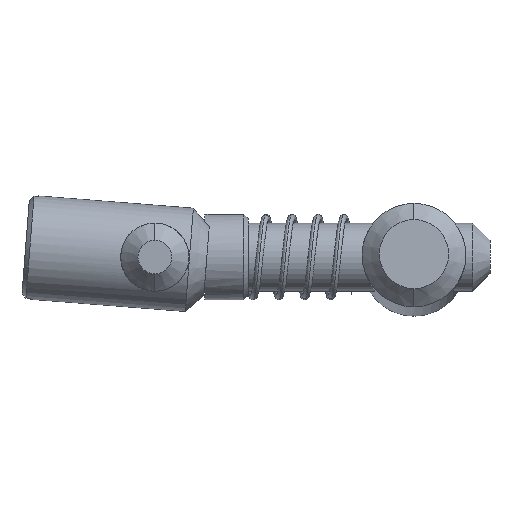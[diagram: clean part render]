
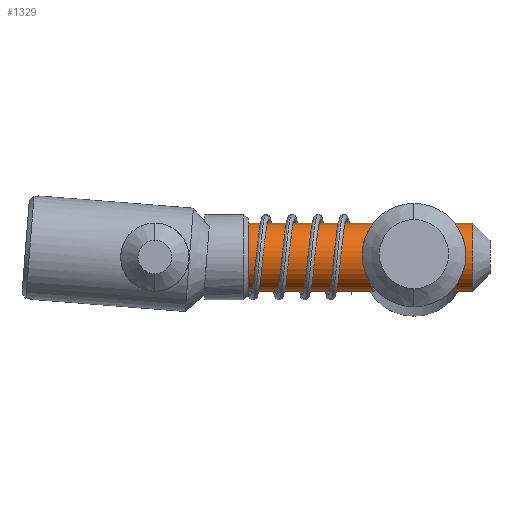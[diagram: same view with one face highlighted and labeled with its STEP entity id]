
A CAD part, left-side view. The second image highlights one B-rep face of the part: STEP entity #1329.
In plain terms, the highlighted cylindrical face has radius 3.95 mm (diameter 7.9 mm), a partial arc.
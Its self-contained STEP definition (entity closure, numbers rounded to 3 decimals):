
#190 = DIRECTION ( 'NONE',  ( 0., 1., 0. ) ) ;
#560 = CARTESIAN_POINT ( 'NONE',  ( 3.526, -4.384, -13.002 ) ) ;
#562 = DIRECTION ( 'NONE',  ( 0., 1., 0. ) ) ;
#575 = DIRECTION ( 'NONE',  ( 0., 0., 1. ) ) ;
#655 = CYLINDRICAL_SURFACE ( 'NONE', #4813, 3.95 ) ;
#848 = CARTESIAN_POINT ( 'NONE',  ( 3.526, -4.384, -16.952 ) ) ;
#861 = DIRECTION ( 'NONE',  ( 0., 1., 0. ) ) ;
#864 = EDGE_LOOP ( 'NONE', ( #2559, #2483, #2402, #2325 ) ) ;
#1144 = DIRECTION ( 'NONE',  ( 0., 0., -1. ) ) ;
#1149 = EDGE_CURVE ( 'NONE', #1793, #3040, #6275, .T. ) ;
#1159 = DIRECTION ( 'NONE',  ( 0., 1., 0. ) ) ;
#1161 = CARTESIAN_POINT ( 'NONE',  ( 3.526, -41.184, -13.002 ) ) ;
#1193 = EDGE_CURVE ( 'NONE', #1793, #5142, #5050, .T. ) ;
#1329 = ADVANCED_FACE ( 'NONE', ( #2011 ), #655, .T. ) ;
#1709 = VECTOR ( 'NONE', #1781, 1000. ) ;
#1781 = DIRECTION ( 'NONE',  ( 0., 1., 0. ) ) ;
#1793 = VERTEX_POINT ( 'NONE', #4965 ) ;
#1830 = CIRCLE ( 'NONE', #2700, 3.95 ) ;
#1882 = CARTESIAN_POINT ( 'NONE',  ( 3.526, -4.384, -9.052 ) ) ;
#2011 = FACE_OUTER_BOUND ( 'NONE', #864, .T. ) ;
#2325 = ORIENTED_EDGE ( 'NONE', *, *, #5993, .F. ) ;
#2402 = ORIENTED_EDGE ( 'NONE', *, *, #3251, .T. ) ;
#2483 = ORIENTED_EDGE ( 'NONE', *, *, #1149, .T. ) ;
#2559 = ORIENTED_EDGE ( 'NONE', *, *, #1193, .F. ) ;
#2596 = CARTESIAN_POINT ( 'NONE',  ( 3.526, -41.184, -9.052 ) ) ;
#2700 = AXIS2_PLACEMENT_3D ( 'NONE', #3081, #190, #3560 ) ;
#3040 = VERTEX_POINT ( 'NONE', #2596 ) ;
#3081 = CARTESIAN_POINT ( 'NONE',  ( 3.526, -15.184, -13.002 ) ) ;
#3251 = EDGE_CURVE ( 'NONE', #3040, #3411, #6031, .T. ) ;
#3411 = VERTEX_POINT ( 'NONE', #3960 ) ;
#3560 = DIRECTION ( 'NONE',  ( 0., 0., 1. ) ) ;
#3731 = VECTOR ( 'NONE', #861, 1000. ) ;
#3960 = CARTESIAN_POINT ( 'NONE',  ( 3.526, -15.184, -9.052 ) ) ;
#4813 = AXIS2_PLACEMENT_3D ( 'NONE', #560, #562, #575 ) ;
#4965 = CARTESIAN_POINT ( 'NONE',  ( 3.526, -41.184, -16.952 ) ) ;
#5050 = LINE ( 'NONE', #848, #3731 ) ;
#5142 = VERTEX_POINT ( 'NONE', #6308 ) ;
#5993 = EDGE_CURVE ( 'NONE', #5142, #3411, #1830, .T. ) ;
#6031 = LINE ( 'NONE', #1882, #1709 ) ;
#6241 = AXIS2_PLACEMENT_3D ( 'NONE', #1161, #1159, #1144 ) ;
#6275 = CIRCLE ( 'NONE', #6241, 3.95 ) ;
#6308 = CARTESIAN_POINT ( 'NONE',  ( 3.526, -15.184, -16.952 ) ) ;
